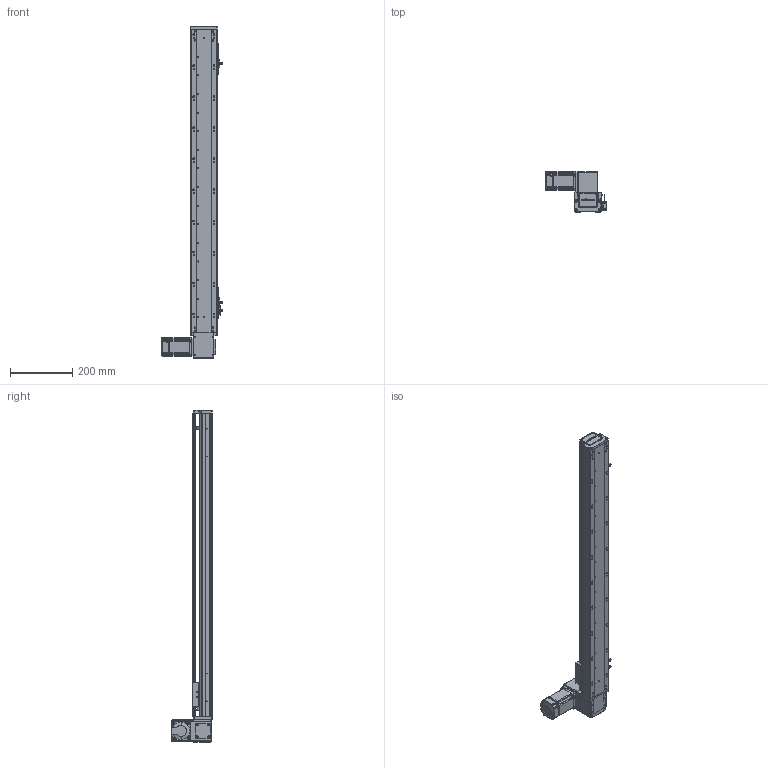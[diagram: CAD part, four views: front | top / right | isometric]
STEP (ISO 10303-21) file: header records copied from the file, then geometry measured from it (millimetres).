
FILE_DESCRIPTION (( 'STEP AP203' ), '1' );
FILE_NAME ('RY80-T-300-UL.SLDASM_800.step', '2021-03-01T02:16:56', ( '盈信电脑' ), ( '东莞市道滘镇水果街19号' ), 'SwSTEP 2.0', 'SolidWorks 2012', '' );
FILE_SCHEMA (( 'CONFIG_CONTROL_DESIGN' ));
Products named in the file (19): RY80-T-上下折同步轮盖板; RY80-T-300-UL.SLDASM_800; RY80-T-M4蹟翐2; RY80-T肮祭謫奻殏俋欶; 1; RY80-T翋肮祭謫裔啣; RY80-T萇儂假蚾啣; RY80-T粣創揤踡輸; 滅袉蝶18-10; RY80-T肮祭湍揤輸1; RY80俋离覜茼え; RY80-T肮祭湍揤輸2; RY80-T-翋肮祭謫釱; RY80-T-300-UL倰第奻裔啣_800; 覜茼ん672; 672嫖萇羲壽假蚾釱; RY80-T綴裔啣; RY80-T肮祭謫臏賑輸; RY80-T-300-UL倰第菁釱_800
Assembly tree (24 placements, depth 2):
  RY80-T-300-UL.SLDASM_800
    RY80-T-300-UL倰第菁釱_800
    RY80-T肮祭謫臏賑輸
    RY80-T-300-UL倰第奻裔啣_800
    RY80-T綴裔啣
    672嫖萇羲壽假蚾釱  x2
    覜茼ん672  x3
    RY80俋离覜茼え
    RY80-T-翋肮祭謫釱
    RY80-T肮祭湍揤輸1
    RY80-T肮祭湍揤輸2
    RY80-T萇儂假蚾啣
    RY80-T粣創揤踡輸  x2
    滅袉蝶18-10  x2
    RY80-T翋肮祭謫裔啣
    1
    RY80-T肮祭謫奻殏俋欶
    RY80-T-M4蹟翐2  x2
    RY80-T-上下折同步轮盖板
Bounding box: 198.7 x 130.5 x 1070 mm (x, y, z)
Volume: 1930061.4 mm3; surface area: 802645.3 mm2
Topology: 24 solids, 24 shells, 2612 faces, 7215 edges, 4687 vertices
Faces by surface type: plane 1372, cylinder 1033, cone 151, bspline 56
Entity records: 82757 total; most frequent: CARTESIAN_POINT 20784, ORIENTED_EDGE 12814, DIRECTION 11906, EDGE_CURVE 6407, VERTEX_POINT 4208, AXIS2_PLACEMENT_3D 4026, VECTOR 3854, LINE 3854
